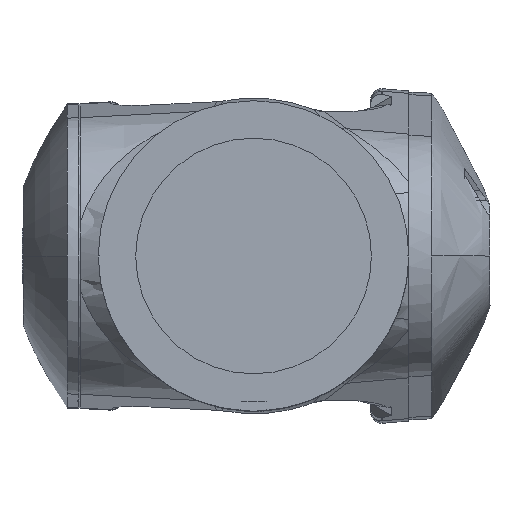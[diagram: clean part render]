
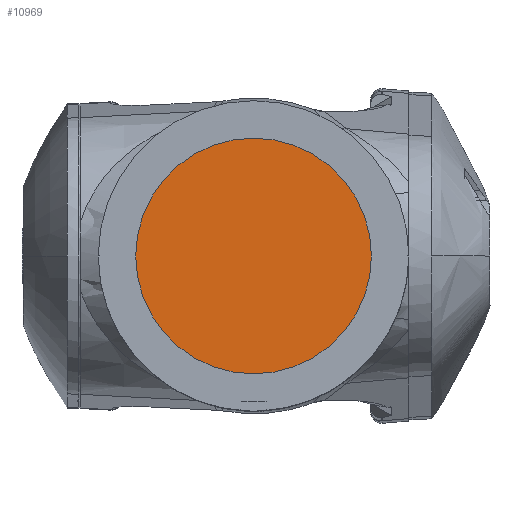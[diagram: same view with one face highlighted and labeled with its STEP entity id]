
A CAD part, left-side view. The second image highlights one B-rep face of the part: STEP entity #10969.
In plain terms, the highlighted planar face has unit normal (-1, 0, 0).
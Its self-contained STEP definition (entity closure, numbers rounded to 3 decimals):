
#2868 = CIRCLE ( 'NONE', #17576, 85. ) ;
#4807 = EDGE_CURVE ( 'NONE', #28236, #13450, #18775, .T. ) ;
#5438 = AXIS2_PLACEMENT_3D ( 'NONE', #33870, #13175, #10467 ) ;
#10422 = DIRECTION ( 'NONE',  ( 0., -1., 0. ) ) ;
#10467 = DIRECTION ( 'NONE',  ( 0., -1., 0. ) ) ;
#10969 = ADVANCED_FACE ( 'NONE', ( #22383 ), #34064, .T. ) ;
#11161 = ORIENTED_EDGE ( 'NONE', *, *, #4807, .F. ) ;
#12635 = AXIS2_PLACEMENT_3D ( 'NONE', #27099, #12722, #33223 ) ;
#12722 = DIRECTION ( 'NONE',  ( 1., 0., 0. ) ) ;
#13175 = DIRECTION ( 'NONE',  ( -1., 0., 0. ) ) ;
#13450 = VERTEX_POINT ( 'NONE', #33639 ) ;
#15648 = CARTESIAN_POINT ( 'NONE',  ( 309.5, 0., 1800. ) ) ;
#16029 = DIRECTION ( 'NONE',  ( 1., 0., 0. ) ) ;
#16601 = EDGE_LOOP ( 'NONE', ( #11161, #28670 ) ) ;
#17576 = AXIS2_PLACEMENT_3D ( 'NONE', #15648, #16029, #10422 ) ;
#18775 = CIRCLE ( 'NONE', #12635, 85. ) ;
#20794 = CARTESIAN_POINT ( 'NONE',  ( 309.5, -85., 1800. ) ) ;
#22383 = FACE_OUTER_BOUND ( 'NONE', #16601, .T. ) ;
#27099 = CARTESIAN_POINT ( 'NONE',  ( 309.5, 0., 1800. ) ) ;
#28236 = VERTEX_POINT ( 'NONE', #20794 ) ;
#28670 = ORIENTED_EDGE ( 'NONE', *, *, #37865, .F. ) ;
#33223 = DIRECTION ( 'NONE',  ( 0., -1., 0. ) ) ;
#33639 = CARTESIAN_POINT ( 'NONE',  ( 309.5, 85., 1800. ) ) ;
#33870 = CARTESIAN_POINT ( 'NONE',  ( 309.5, 0., 1800. ) ) ;
#34064 = PLANE ( 'NONE',  #5438 ) ;
#37865 = EDGE_CURVE ( 'NONE', #13450, #28236, #2868, .T. ) ;
